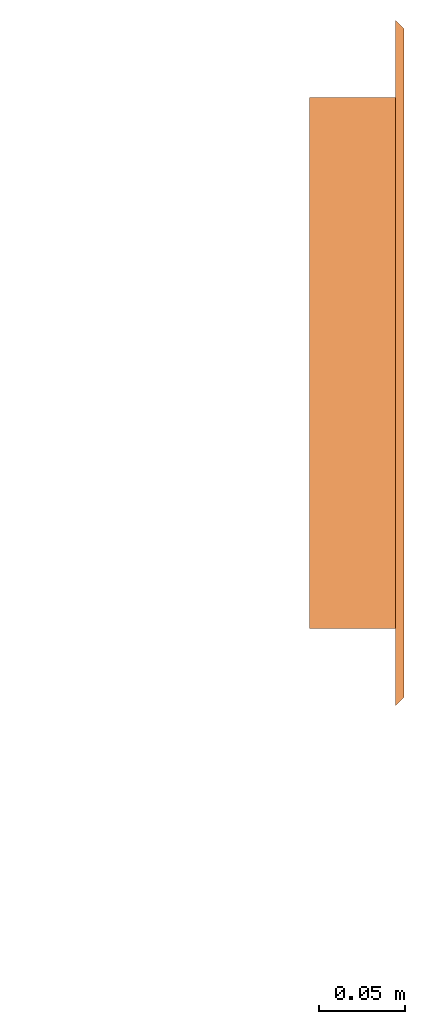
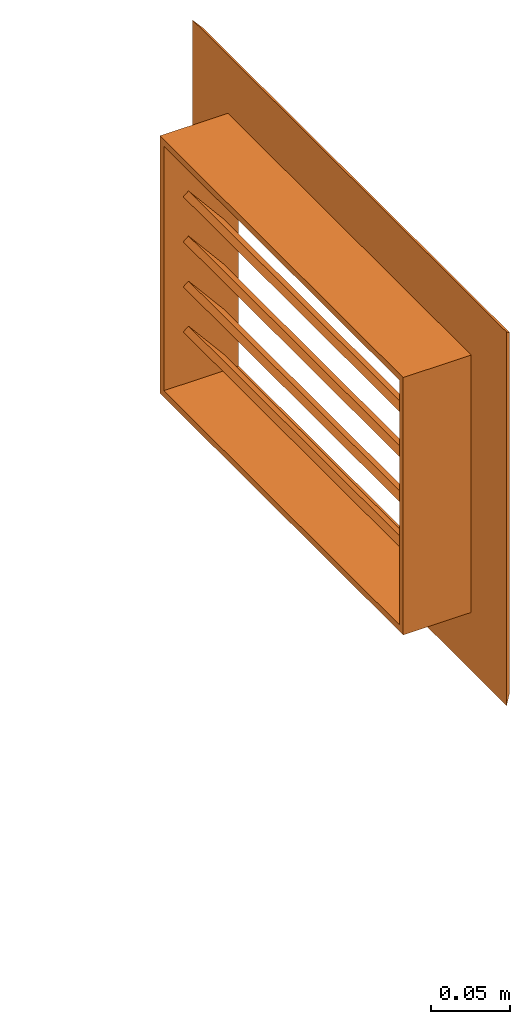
# One storey, part 4 of 4: 1 proxy.
"""IFC2X3 building model written with IfcOpenShell, lengths in centimetres."""

import ifcopenshell
import ifcopenshell.guid

model = None  # the IFC model being written
_history = None  # IfcOwnerHistory: only IFC2X3 demands one
_inside = {}  # id of a spatial element -> (the spatial element, [elements in it])
_under = {}  # id of a project, library or spatial element -> (it, [spatial elements below it])
_declared = {}  # id of a project -> (the project, [libraries it declares])
_typed = {}  # id of a type object -> (the type object, [elements of that type])
_made_of = {}  # id of a material, layer set ... -> (it, [elements and type objects made of it])


def new_model(schema):
    """Start an empty IFC model of exactly this schema.

    Asked for "IFC4X3", IfcOpenShell would pick the latest addendum, in which some entities
    have other attributes; the version numbers below select the first issue.
    IFC2X3 requires an IfcOwnerHistory on every rooted entity: one is made here for all.
    """
    global model, _history
    if schema == "IFC4X3":
        model = ifcopenshell.file(schema_version=(4, 3, 0, 0))
    else:
        model = ifcopenshell.file(schema=schema)
    _inside.clear()
    _under.clear()
    _declared.clear()
    _typed.clear()
    _made_of.clear()
    _history = None
    if model.schema == "IFC2X3":
        org = make("IfcOrganization", Name="unknown")
        user = make(
            "IfcPersonAndOrganization",
            ThePerson=make("IfcPerson", FamilyName="unknown"),
            TheOrganization=org,
        )
        app = make(
            "IfcApplication",
            ApplicationDeveloper=org,
            Version="unknown",
            ApplicationFullName="unknown",
            ApplicationIdentifier="unknown",
        )
        _history = make(
            "IfcOwnerHistory",
            OwningUser=user,
            OwningApplication=app,
            ChangeAction="ADDED",
            CreationDate=0,
        )
    return model


def make(cls, **values):
    """One entity of the class cls with the attributes given. An attribute that is None is left unset."""
    return model.create_entity(
        cls, **{name: value for name, value in values.items() if value is not None}
    )


def entity(cls, *values):
    """Any entity or typed value of the class cls, its attributes in the order of the schema. None: left unset."""
    e = model.create_entity(cls)
    for i, value in enumerate(values):
        if value is not None:
            e[i] = value
    return e


def rooted(cls, **values):
    """An entity with a GlobalId (a new one), such as an element, a storey or a relation."""
    return make(cls, GlobalId=ifcopenshell.guid.new(), OwnerHistory=_history, **values)


def si_unit(unit_type, name, prefix=None):
    """IfcSIUnit, for example si_unit("LENGTHUNIT", "METRE", prefix="MILLI")."""
    return make("IfcSIUnit", UnitType=unit_type, Prefix=prefix, Name=name)


def converted_unit(unit_type, name, factor, base, dimensions=None, offset=None):
    """IfcConversionBasedUnit, such as the inch: factor (a typed value) times the base unit."""
    return make(
        "IfcConversionBasedUnit"
        if offset is None
        else "IfcConversionBasedUnitWithOffset",
        ConversionOffset=offset,
        Dimensions=None
        if dimensions is None
        else entity("IfcDimensionalExponents", *dimensions),
        UnitType=unit_type,
        Name=name,
        ConversionFactor=make(
            "IfcMeasureWithUnit", ValueComponent=factor, UnitComponent=base
        ),
    )


def derived_unit(unit_type, elements):
    """IfcDerivedUnit: a product of units, each with its exponent."""
    return make(
        "IfcDerivedUnit",
        Elements=[
            make("IfcDerivedUnitElement", Unit=unit, Exponent=power)
            for unit, power in elements
        ],
        UnitType=unit_type,
    )


def assignment(units):
    """IfcUnitAssignment: the units of a project."""
    return None if units is None else make("IfcUnitAssignment", Units=units)


def point(xyz):
    """IfcCartesianPoint."""
    return None if xyz is None else make("IfcCartesianPoint", Coordinates=xyz)


def direction(xyz):
    """IfcDirection."""
    return None if xyz is None else make("IfcDirection", DirectionRatios=xyz)


def frame(location, z_axis=None, x_axis=None):
    """IfcAxis2Placement3D, a coordinate frame: its origin and axes. An axis left out is left unset."""
    return make(
        "IfcAxis2Placement3D",
        Location=point(location),
        Axis=direction(z_axis),
        RefDirection=direction(x_axis),
    )


def origin():
    """The frame at (0, 0, 0) with its axes left unset."""
    return frame((0.0, 0.0, 0.0))


def place(relative_to, where):
    """IfcLocalPlacement: puts the frame where relative to a parent placement (None: the world)."""
    return make(
        "IfcLocalPlacement", PlacementRelTo=relative_to, RelativePlacement=where
    )


def context(
    kind, dimensions, precision=None, world=None, true_north=None, identifier=None
):
    """IfcGeometricRepresentationContext, for example the 3D "Model" context."""
    return make(
        "IfcGeometricRepresentationContext",
        ContextIdentifier=identifier,
        ContextType=kind,
        CoordinateSpaceDimension=dimensions,
        Precision=precision,
        WorldCoordinateSystem=world,
        TrueNorth=true_north,
    )


def subcontext(parent, identifier, kind, view, scale=None):
    """IfcGeometricRepresentationSubContext, for example "Body" below "Model"."""
    return make(
        "IfcGeometricRepresentationSubContext",
        ContextIdentifier=identifier,
        ContextType=kind,
        ParentContext=parent,
        TargetScale=scale,
        TargetView=view,
    )


def project(units=None, contexts=None):
    """IfcProject with its units and contexts."""
    return rooted(
        "IfcProject",
        Name="project",
        RepresentationContexts=contexts,
        UnitsInContext=assignment(units),
    )


def spatial(cls, under=None, at=None, **own):
    """A site, building, storey or space (cls), placed at a placement, below another one or the project."""
    s = rooted(cls, ObjectPlacement=at, **own)
    if under is not None:
        _under.setdefault(under.id(), (under, []))[1].append(s)
    return s


def faces_of(points, faces, orient=None, outer=None):
    """IfcFace entities. A face is a list of loops; a loop is a list of indices into points, from 0.

    orient and outer hold one flag for each loop. By default every Orientation is true, the
    first loop of a face is its IfcFaceOuterBound and the others are IfcFaceBound.
    """
    made = []
    for i, loops in enumerate(faces):
        bounds = []
        for j, loop in enumerate(loops):
            is_outer = j == 0 if outer is None else outer[i][j]
            bounds.append(
                make(
                    "IfcFaceOuterBound" if is_outer else "IfcFaceBound",
                    Bound=make("IfcPolyLoop", Polygon=[points[k] for k in loop]),
                    Orientation=True if orient is None else orient[i][j],
                )
            )
        made.append(make("IfcFace", Bounds=bounds))
    return made


def faceted_brep(points, faces, orient=None, outer=None, voids=None):
    """IfcFacetedBrep: a solid bounded by flat faces; with voids (closed shells), ...WithVoids."""
    shared = [point(p) for p in points]
    hull = make("IfcClosedShell", CfsFaces=faces_of(shared, faces, orient, outer))
    if voids is None:
        return make("IfcFacetedBrep", Outer=hull)
    return make(
        "IfcFacetedBrepWithVoids",
        Outer=hull,
        Voids=[
            make(cls, CfsFaces=faces_of(shared, fs, o, b)) for cls, fs, o, b in voids
        ],
    )


def shape(context_of_items, identifier, shape_type, items):
    """IfcShapeRepresentation: the items that make up one representation, for example the "Body"."""
    return make(
        "IfcShapeRepresentation",
        ContextOfItems=context_of_items,
        RepresentationIdentifier=identifier,
        RepresentationType=shape_type,
        Items=items,
    )


def source(mapping_origin, context_of_items, identifier, shape_type, items):
    """IfcRepresentationMap: a shape defined once, which mapped items show again and again."""
    return make(
        "IfcRepresentationMap",
        MappingOrigin=mapping_origin,
        MappedRepresentation=shape(context_of_items, identifier, shape_type, items),
    )


def transform(
    local_origin,
    x_axis=None,
    y_axis=None,
    z_axis=None,
    scale=None,
    scale2=None,
    scale3=None,
    uniform=True,
):
    """IfcCartesianTransformationOperator3D, or its non-uniform kind. x_axis, y_axis, z_axis: its Axis1, 2, 3."""
    if uniform:
        return make(
            "IfcCartesianTransformationOperator3D",
            Axis1=direction(x_axis),
            Axis2=direction(y_axis),
            LocalOrigin=point(local_origin),
            Scale=scale,
            Axis3=direction(z_axis),
        )
    return make(
        "IfcCartesianTransformationOperator3DnonUniform",
        Axis1=direction(x_axis),
        Axis2=direction(y_axis),
        LocalOrigin=point(local_origin),
        Scale=scale,
        Axis3=direction(z_axis),
        Scale2=scale2,
        Scale3=scale3,
    )


def mapped(mapping_source, mapping_target):
    """IfcMappedItem: shows the shape of a source again, moved by a transform."""
    return make(
        "IfcMappedItem", MappingSource=mapping_source, MappingTarget=mapping_target
    )


def material(Name=None, Category=None):
    """IfcMaterial."""
    return make("IfcMaterial", Name=Name, Category=Category)


def made_of(thing, what):
    """Note that an element or type object is made of a material, layer set ...; save() writes the relation."""
    if what is not None:
        _made_of.setdefault(what.id(), (what, []))[1].append(thing)
    return thing


def type_object(cls, material=None, **own):
    """A type object (cls), such as IfcWallType, which elements share."""
    return made_of(rooted(cls, **own), material)


def type_shapes(of_type, sources):
    """Give a type object the sources (RepresentationMaps) that its elements show as mapped items."""
    of_type.RepresentationMaps = sources


def element(
    cls,
    number,
    at=None,
    inside=None,
    cuts=None,
    type_object=None,
    material=None,
    context=None,
    identifier="Body",
    shape_type=None,
    held_by="IfcProductDefinitionShape",
    body=None,
    shapes=None,
    **own,
):
    """One element of the class cls, such as IfcWall. Its Tag is "e" and its number.

    at: its placement. inside: the storey or other place that contains it. cuts: it is an
    opening in that element (IfcRelVoidsElement). A single representation is given by context,
    identifier, shape_type and body (its items); several are given by shapes. held_by: the class
    of the entity that holds the representations. save() writes the other relations.
    """
    e = rooted(cls, Tag="e%d" % number, ObjectPlacement=at, **own)
    if body is not None:
        shapes = [shape(context, identifier, shape_type, body)]
    if shapes is not None:
        e.Representation = make(held_by, Representations=shapes)
    if inside is not None:
        _inside.setdefault(inside.id(), (inside, []))[1].append(e)
    if cuts is not None:
        rooted(
            "IfcRelVoidsElement", RelatingBuildingElement=cuts, RelatedOpeningElement=e
        )
    if type_object is not None:
        _typed.setdefault(type_object.id(), (type_object, []))[1].append(e)
    return made_of(e, material)


def aggregate(whole, parts):
    """IfcRelAggregates: a whole, such as a stair, and the parts it consists of."""
    return rooted("IfcRelAggregates", RelatingObject=whole, RelatedObjects=parts)


def save(model, path):
    """Write the relations noted so far, then the file.

    IfcRelAggregates (storeys below a building ...), IfcRelContainedInSpatialStructure (elements
    in a storey), IfcRelDefinesByType, IfcRelAssociatesMaterial and IfcRelDeclares: one each for
    every whole, place, type object, material and project.
    """
    for whole, parts in _under.values():
        aggregate(whole, parts)
    for where, things in _inside.values():
        rooted(
            "IfcRelContainedInSpatialStructure",
            RelatedElements=things,
            RelatingStructure=where,
        )
    for kind, things in _typed.values():
        rooted("IfcRelDefinesByType", RelatedObjects=things, RelatingType=kind)
    for what, things in _made_of.values():
        rooted("IfcRelAssociatesMaterial", RelatedObjects=things, RelatingMaterial=what)
    for by, libraries in _declared.values():
        rooted("IfcRelDeclares", RelatingContext=by, RelatedDefinitions=libraries)
    model.write(path)


model = new_model("IFC2X3")

# Units and contexts
model_context = context("Model", 3, precision=0.001, world=origin(), true_north=direction((6.12303176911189e-17, 1.0)))
body_context = subcontext(model_context, "Body", "Model", "MODEL_VIEW")
ifc_project = project(units=[si_unit("LENGTHUNIT", "METRE", prefix="CENTI"), si_unit("AREAUNIT", "SQUARE_METRE"), si_unit("VOLUMEUNIT", "CUBIC_METRE"), converted_unit("PLANEANGLEUNIT", "DEGREE", entity("IfcRatioMeasure", 0.0174532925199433), si_unit("PLANEANGLEUNIT", "RADIAN"), dimensions=[0, 0, 0, 0, 0, 0, 0]), si_unit("MASSUNIT", "GRAM", prefix="KILO"), si_unit("TIMEUNIT", "SECOND"), si_unit("FREQUENCYUNIT", "HERTZ"), si_unit("THERMODYNAMICTEMPERATUREUNIT", "DEGREE_CELSIUS"), derived_unit("THERMALTRANSMITTANCEUNIT", [(si_unit("MASSUNIT", "GRAM", prefix="KILO"), 1), (si_unit("THERMODYNAMICTEMPERATUREUNIT", "KELVIN"), -1), (si_unit("TIMEUNIT", "SECOND"), -3)]), derived_unit("VOLUMETRICFLOWRATEUNIT", [(si_unit("LENGTHUNIT", "METRE"), 3), (si_unit("TIMEUNIT", "SECOND"), -1)]), si_unit("ELECTRICCURRENTUNIT", "AMPERE"), si_unit("ELECTRICVOLTAGEUNIT", "VOLT"), si_unit("POWERUNIT", "WATT"), si_unit("FORCEUNIT", "NEWTON", prefix="KILO"), si_unit("ILLUMINANCEUNIT", "LUX"), si_unit("LUMINOUSFLUXUNIT", "LUMEN"), si_unit("LUMINOUSINTENSITYUNIT", "CANDELA"), derived_unit("USERDEFINED", [(si_unit("MASSUNIT", "GRAM", prefix="KILO"), -1), (si_unit("LENGTHUNIT", "METRE"), -2), (si_unit("TIMEUNIT", "SECOND"), 3), (si_unit("LUMINOUSFLUXUNIT", "LUMEN"), 1)]), derived_unit("LINEARVELOCITYUNIT", [(si_unit("LENGTHUNIT", "METRE"), 1), (si_unit("TIMEUNIT", "SECOND"), -1)]), si_unit("PRESSUREUNIT", "PASCAL"), derived_unit("USERDEFINED", [(si_unit("LENGTHUNIT", "METRE"), -2), (si_unit("MASSUNIT", "GRAM", prefix="KILO"), 1), (si_unit("TIMEUNIT", "SECOND"), -2)])], contexts=[model_context])

# Site, building, storey
site_placement = place(None, frame((8.62739174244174, -249.285249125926, 0.0)))
site = spatial("IfcSite", under=ifc_project, at=site_placement, Name="Default", CompositionType="ELEMENT")
building_placement = place(site_placement, origin())
building = spatial("IfcBuilding", under=site, at=building_placement, CompositionType="ELEMENT")
storey_placement = place(building_placement, frame((0.0, 0.0, 30.0)))
storey = spatial("IfcBuildingStorey", under=building, at=storey_placement, Name="vestiaires", CompositionType="ELEMENT", Elevation=30.0)

# Proxy
ifc_material = material(Name="Acier - Galvanisé")
building_element_proxy_type = type_object("IfcBuildingElementProxyType", Name="200 x 200 mm", PredefinedType="NOTDEFINED", material=ifc_material)
shared_shape = source(origin(), body_context, "Body", "Brep", [
    faceted_brep([(34.9842758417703, 1.42884956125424, 12.5759534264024), (34.9842758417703, 4.0, 9.51177565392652), (34.9842758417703, 4.38302222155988, 9.8331694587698), (34.9842758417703, 1.81187178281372, 12.8973472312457), (5.01177565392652, 1.42884956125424, 12.5759534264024), (5.01177565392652, 1.81187178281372, 12.8973472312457), (5.01177565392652, 4.38302222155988, 9.8331694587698), (5.01177565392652, 4.0, 9.51177565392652)], [[[0, 1, 2, 3]], [[4, 5, 6, 7]], [[1, 0, 4, 7]], [[2, 1, 7, 6]], [[3, 2, 6, 5]], [[0, 3, 5, 4]]]),
    faceted_brep([(34.9842758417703, 1.4288495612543, 16.0759534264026), (34.9842758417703, 4.0, 13.0117756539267), (34.9842758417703, 4.38302222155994, 13.3331694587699), (34.9842758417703, 1.81187178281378, 16.3973472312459), (5.01177565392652, 1.4288495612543, 16.0759534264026), (5.01177565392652, 1.81187178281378, 16.3973472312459), (5.01177565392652, 4.38302222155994, 13.3331694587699), (5.01177565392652, 4.0, 13.0117756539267)], [[[0, 1, 2, 3]], [[4, 5, 6, 7]], [[1, 0, 4, 7]], [[2, 1, 7, 6]], [[3, 2, 6, 5]], [[0, 3, 5, 4]]]),
    faceted_brep([(34.9842758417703, 1.42884956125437, 19.5759534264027), (34.9842758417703, 4.0, 16.5117756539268), (34.9842758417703, 4.38302222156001, 16.8331694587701), (34.9842758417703, 1.81187178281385, 19.897347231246), (5.01177565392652, 1.42884956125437, 19.5759534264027), (5.01177565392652, 1.81187178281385, 19.897347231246), (5.01177565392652, 4.38302222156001, 16.8331694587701), (5.01177565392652, 4.0, 16.5117756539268)], [[[0, 1, 2, 3]], [[4, 5, 6, 7]], [[1, 0, 4, 7]], [[2, 1, 7, 6]], [[3, 2, 6, 5]], [[0, 3, 5, 4]]]),
    faceted_brep([(34.9842758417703, 1.42884956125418, 9.0759534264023), (34.9842758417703, 4.0, 6.01177565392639), (34.9842758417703, 4.38302222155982, 6.33316945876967), (34.9842758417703, 1.81187178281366, 9.39734723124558), (5.01177565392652, 1.42884956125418, 9.0759534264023), (5.01177565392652, 1.81187178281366, 9.39734723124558), (5.01177565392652, 4.38302222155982, 6.33316945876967), (5.01177565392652, 4.0, 6.01177565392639)], [[[0, 1, 2, 3]], [[4, 5, 6, 7]], [[1, 0, 4, 7]], [[2, 1, 7, 6]], [[3, 2, 6, 5]], [[0, 3, 5, 4]]]),
    faceted_brep([(34.9842758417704, 1.42884956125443, 23.0759534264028), (34.9842758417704, 4.0, 20.0117756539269), (34.9842758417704, 4.38302222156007, 20.3331694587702), (34.9842758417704, 1.81187178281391, 23.3973472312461), (5.01177565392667, 1.42884956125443, 23.0759534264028), (5.01177565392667, 1.81187178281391, 23.3973472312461), (5.01177565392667, 4.38302222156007, 20.3331694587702), (5.01177565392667, 4.0, 20.0117756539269)], [[[0, 1, 2, 3]], [[4, 5, 6, 7]], [[1, 0, 4, 7]], [[2, 1, 7, 6]], [[3, 2, 6, 5]], [[0, 3, 5, 4]]]),
    faceted_brep([(4.51177565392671, 0.0, 24.5117756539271), (4.51177565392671, 5.0, 24.5117756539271), (4.51177565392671, 5.0, 4.51177565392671), (4.51177565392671, 0.0, 4.51177565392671), (5.0117756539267, 5.5, 24.0117756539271), (5.0117756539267, 0.0, 24.0117756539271), (5.0117756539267, 0.0, 5.0117756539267), (5.0117756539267, 5.5, 5.0117756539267), (0.0, 5.0, 29.0235513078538), (0.499999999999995, 5.5, 28.5235513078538), (0.499999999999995, 5.5, 0.499999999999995), (0.0, 5.0, 0.0), (35.4842758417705, 5.0, 4.51177565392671), (35.4842758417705, 0.0, 4.51177565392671), (34.9842758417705, 0.0, 5.0117756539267), (34.9842758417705, 5.5, 5.0117756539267), (39.4960514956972, 5.5, 0.499999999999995), (39.9960514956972, 5.0, 0.0), (35.4842758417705, 5.0, 24.5117756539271), (35.4842758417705, 0.0, 24.5117756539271), (34.9842758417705, 0.0, 24.0117756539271), (34.9842758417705, 5.5, 24.0117756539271), (39.4960514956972, 5.5, 28.5235513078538), (39.9960514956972, 5.0, 29.0235513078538)], [[[0, 1, 2, 3]], [[4, 5, 6, 7]], [[8, 9, 10, 11]], [[3, 2, 12, 13]], [[7, 6, 14, 15]], [[11, 10, 16, 17]], [[13, 12, 18, 19]], [[15, 14, 20, 21]], [[17, 16, 22, 23]], [[19, 18, 1, 0]], [[3, 13, 19, 0], [5, 20, 14, 6]], [[21, 20, 5, 4]], [[7, 15, 21, 4], [9, 22, 16, 10]], [[23, 22, 9, 8]], [[11, 17, 23, 8], [1, 18, 12, 2]]], outer=[[True], [True], [True], [True], [True], [True], [True], [True], [True], [True], [True, False], [True], [False, True], [True], [True, False]]),
])
type_shapes(building_element_proxy_type, [shared_shape])
proxy_placement = place(storey_placement, frame((3993.90482781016, 4875.98020813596, 149.476448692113), z_axis=(0.0, 0.0, 1.0), x_axis=(0.0, -1.0, 0.0)))
element("IfcBuildingElementProxy", 1, at=proxy_placement, inside=storey, type_object=building_element_proxy_type, material=ifc_material, Name="Grille d'aération 20x20- Mur:200 x 200 mm", ObjectType="200 x 200 mm", context=body_context, shape_type="MappedRepresentation", body=[
    mapped(shared_shape, transform((0.0, 0.0, 0.0), scale=1.0)),
])

save(model, "model.ifc")
